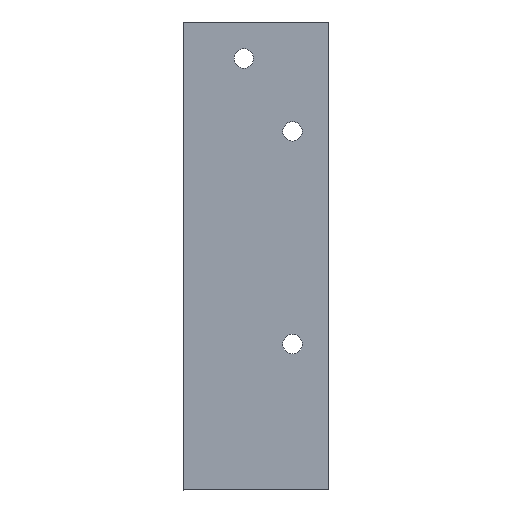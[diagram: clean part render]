
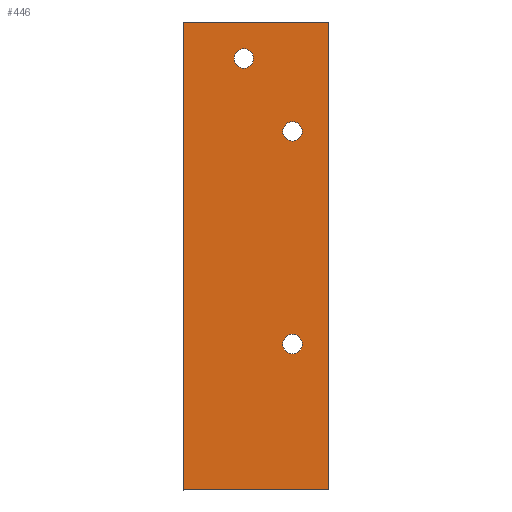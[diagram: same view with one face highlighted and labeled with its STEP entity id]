
A CAD part, top view. The second image highlights one B-rep face of the part: STEP entity #446.
In plain terms, the highlighted planar face has unit normal (0, 0, 1).
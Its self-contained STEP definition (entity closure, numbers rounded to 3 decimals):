
#208=CIRCLE('',#429,8.);
#209=CIRCLE('',#430,8.);
#210=CIRCLE('',#431,8.);
#226=ORIENTED_EDGE('',*,*,#287,.T.);
#227=ORIENTED_EDGE('',*,*,#297,.T.);
#228=ORIENTED_EDGE('',*,*,#298,.F.);
#229=ORIENTED_EDGE('',*,*,#295,.F.);
#230=ORIENTED_EDGE('',*,*,#299,.F.);
#231=ORIENTED_EDGE('',*,*,#300,.F.);
#232=ORIENTED_EDGE('',*,*,#301,.F.);
#249=VECTOR('',#343,1.);
#254=VECTOR('',#358,1.);
#256=VECTOR('',#362,1.);
#257=VECTOR('',#363,1.);
#261=LINE('',#388,#249);
#266=LINE('',#404,#254);
#268=LINE('',#408,#256);
#269=LINE('',#409,#257);
#273=VERTEX_POINT('',#385);
#274=VERTEX_POINT('',#387);
#280=VERTEX_POINT('',#403);
#281=VERTEX_POINT('',#407);
#282=VERTEX_POINT('',#410);
#283=VERTEX_POINT('',#412);
#284=VERTEX_POINT('',#414);
#287=EDGE_CURVE('',#274,#273,#261,.T.);
#295=EDGE_CURVE('',#274,#280,#266,.T.);
#297=EDGE_CURVE('',#273,#281,#268,.T.);
#298=EDGE_CURVE('',#280,#281,#269,.T.);
#299=EDGE_CURVE('',#282,#282,#208,.T.);
#300=EDGE_CURVE('',#283,#283,#209,.T.);
#301=EDGE_CURVE('',#284,#284,#210,.T.);
#309=EDGE_LOOP('',(#226,#227,#228,#229));
#310=EDGE_LOOP('',(#230));
#311=EDGE_LOOP('',(#231));
#312=EDGE_LOOP('',(#232));
#327=FACE_BOUND('',#309,.T.);
#328=FACE_BOUND('',#310,.T.);
#329=FACE_BOUND('',#311,.T.);
#330=FACE_BOUND('',#312,.T.);
#343=DIRECTION('',(0.,385.,0.));
#358=DIRECTION('',(-120.,0.,0.));
#360=DIRECTION('',(0.,0.,1.));
#361=DIRECTION('',(0.,-1.,0.));
#362=DIRECTION('',(-120.,0.,0.));
#363=DIRECTION('',(0.,385.,0.));
#364=DIRECTION('',(0.,0.,1.));
#365=DIRECTION('',(-8.,0.,0.));
#366=DIRECTION('',(0.,0.,1.));
#367=DIRECTION('',(0.,-8.,0.));
#368=DIRECTION('',(0.,0.,1.));
#369=DIRECTION('',(0.,-8.,0.));
#385=CARTESIAN_POINT('',(120.,192.5,5.));
#387=CARTESIAN_POINT('',(120.,-192.5,5.));
#388=CARTESIAN_POINT('',(120.,-192.5,5.));
#403=CARTESIAN_POINT('',(0.,-192.5,5.));
#404=CARTESIAN_POINT('',(120.,-192.5,5.));
#406=CARTESIAN_POINT('',(120.,192.5,5.));
#407=CARTESIAN_POINT('',(0.,192.5,5.));
#408=CARTESIAN_POINT('',(120.,192.5,5.));
#409=CARTESIAN_POINT('',(0.,-192.5,5.));
#410=CARTESIAN_POINT('',(42.,162.5,5.));
#411=CARTESIAN_POINT('',(50.,162.5,5.));
#412=CARTESIAN_POINT('',(90.,94.5,5.));
#413=CARTESIAN_POINT('',(90.,102.5,5.));
#414=CARTESIAN_POINT('',(90.,-80.5,5.));
#415=CARTESIAN_POINT('',(90.,-72.5,5.));
#428=AXIS2_PLACEMENT_3D('',#406,#360,#361);
#429=AXIS2_PLACEMENT_3D('',#411,#364,#365);
#430=AXIS2_PLACEMENT_3D('',#413,#366,#367);
#431=AXIS2_PLACEMENT_3D('',#415,#368,#369);
#440=PLANE('',#428);
#446=ADVANCED_FACE('',(#327,#328,#329,#330),#440,.T.);
